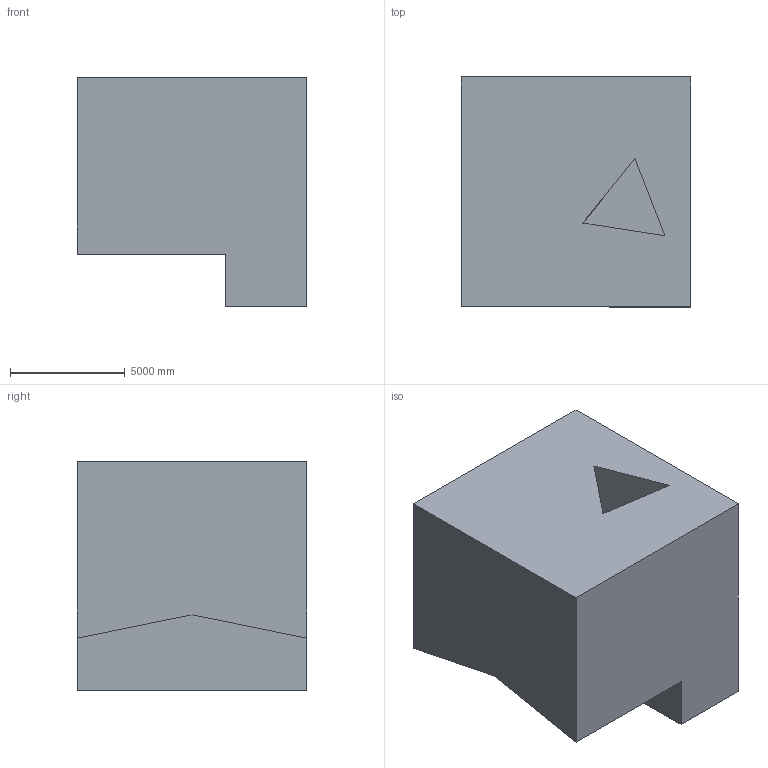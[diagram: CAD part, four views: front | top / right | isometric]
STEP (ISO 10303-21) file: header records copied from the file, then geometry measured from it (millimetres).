
FILE_DESCRIPTION (( 'STEP AP203' ), '1' );
FILE_NAME ('218.STEP', '2022-09-07T12:19:50', ( 'user' ), ( '' ), 'SwSTEP 2.0', 'SolidWorks 2021', '' );
FILE_SCHEMA (( 'CONFIG_CONTROL_DESIGN' ));
Length unit declared in the file: centimetre
Products named in the file (1): 218
Bounding box: 10000 x 10000 x 10000 mm (x, y, z)
Volume: 787833317375.6 mm3; surface area: 631120505.4 mm2
Topology: 1 solids, 1 shells, 13 faces, 30 edges, 20 vertices
Faces by surface type: plane 13
Entity records: 441 total; most frequent: CARTESIAN_POINT 64, ORIENTED_EDGE 60, DIRECTION 58, LINE 30, EDGE_CURVE 30, VECTOR 30, VERTEX_POINT 20, EDGE_LOOP 14
